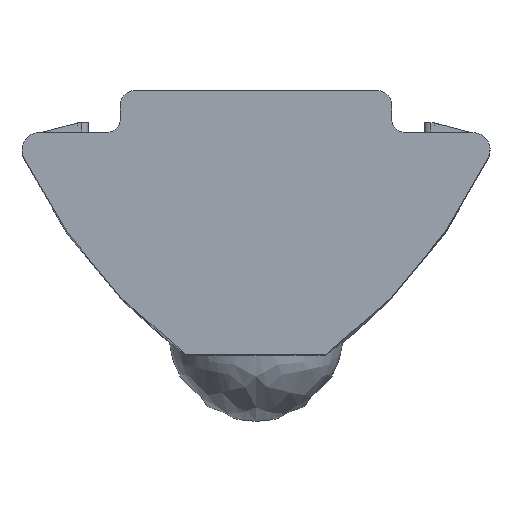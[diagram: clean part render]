
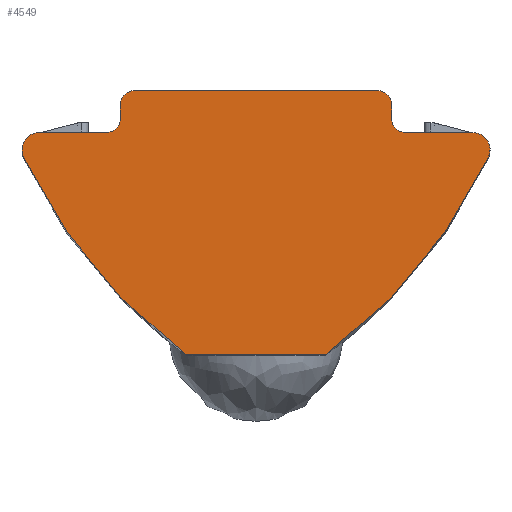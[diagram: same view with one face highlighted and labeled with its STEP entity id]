
A CAD part, top view. The second image highlights one B-rep face of the part: STEP entity #4549.
In plain terms, the highlighted planar face has unit normal (0, 0, 1).
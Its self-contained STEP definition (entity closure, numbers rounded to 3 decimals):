
#10 = DIRECTION ( 'NONE',  ( 0., 0., -1. ) ) ;
#21 = CARTESIAN_POINT ( 'NONE',  ( 3.5, 0.4, 22. ) ) ;
#48 = AXIS2_PLACEMENT_3D ( 'NONE', #1475, #2258, #3289 ) ;
#104 = DIRECTION ( 'NONE',  ( -1., 0., 0. ) ) ;
#164 = DIRECTION ( 'NONE',  ( 0., 0., -1. ) ) ;
#168 = EDGE_CURVE ( 'NONE', #4877, #396, #692, .T. ) ;
#193 = CARTESIAN_POINT ( 'NONE',  ( -3.9, 0.4, 22. ) ) ;
#232 = CARTESIAN_POINT ( 'NONE',  ( -3.9, -0.4, 22. ) ) ;
#265 = CARTESIAN_POINT ( 'NONE',  ( 3.9, 0., 22. ) ) ;
#292 = CARTESIAN_POINT ( 'NONE',  ( -2., -7.2, 22. ) ) ;
#333 = EDGE_CURVE ( 'NONE', #828, #2884, #4367, .T. ) ;
#384 = EDGE_CURVE ( 'NONE', #828, #4877, #1573, .T. ) ;
#391 = ORIENTED_EDGE ( 'NONE', *, *, #4662, .F. ) ;
#396 = VERTEX_POINT ( 'NONE', #2754 ) ;
#439 = ORIENTED_EDGE ( 'NONE', *, *, #3114, .T. ) ;
#464 = DIRECTION ( 'NONE',  ( 1., 0., 0. ) ) ;
#491 = DIRECTION ( 'NONE',  ( 1., 0., 0. ) ) ;
#628 = DIRECTION ( 'NONE',  ( -1., 0., 0. ) ) ;
#655 = DIRECTION ( 'NONE',  ( -1., 0., 0. ) ) ;
#666 = VECTOR ( 'NONE', #628, 1000. ) ;
#676 = DIRECTION ( 'NONE',  ( 0., 0., -1. ) ) ;
#677 = CARTESIAN_POINT ( 'NONE',  ( 6.233, -1.3, 22. ) ) ;
#692 = CIRCLE ( 'NONE', #2862, 15. ) ;
#755 = EDGE_CURVE ( 'NONE', #1159, #1243, #2544, .T. ) ;
#763 = CIRCLE ( 'NONE', #4687, 0.5 ) ;
#828 = VERTEX_POINT ( 'NONE', #292 ) ;
#842 = EDGE_CURVE ( 'NONE', #2698, #1159, #3324, .T. ) ;
#976 = CARTESIAN_POINT ( 'NONE',  ( -6.233, -1.3, 22. ) ) ;
#991 = VERTEX_POINT ( 'NONE', #3910 ) ;
#1003 = EDGE_CURVE ( 'NONE', #2884, #3069, #763, .T. ) ;
#1021 = ORIENTED_EDGE ( 'NONE', *, *, #333, .F. ) ;
#1023 = DIRECTION ( 'NONE',  ( 1., 0., 0. ) ) ;
#1085 = CARTESIAN_POINT ( 'NONE',  ( 0., -0.8, 22. ) ) ;
#1098 = CIRCLE ( 'NONE', #4613, 0.4 ) ;
#1101 = CARTESIAN_POINT ( 'NONE',  ( 2., -7.2, 22. ) ) ;
#1142 = EDGE_LOOP ( 'NONE', ( #2649, #1968, #391, #1953, #439, #2996, #4898, #1021, #3246, #3224, #2753, #4955, #1453, #1930, #3586 ) ) ;
#1159 = VERTEX_POINT ( 'NONE', #3437 ) ;
#1243 = VERTEX_POINT ( 'NONE', #2269 ) ;
#1255 = AXIS2_PLACEMENT_3D ( 'NONE', #677, #10, #3046 ) ;
#1365 = EDGE_CURVE ( 'NONE', #3219, #4961, #1876, .T. ) ;
#1453 = ORIENTED_EDGE ( 'NONE', *, *, #755, .T. ) ;
#1475 = CARTESIAN_POINT ( 'NONE',  ( 6.879, 4.89, 22. ) ) ;
#1573 = LINE ( 'NONE', #4221, #4283 ) ;
#1617 = AXIS2_PLACEMENT_3D ( 'NONE', #1824, #2126, #3005 ) ;
#1627 = VERTEX_POINT ( 'NONE', #4934 ) ;
#1638 = LINE ( 'NONE', #193, #1780 ) ;
#1701 = CARTESIAN_POINT ( 'NONE',  ( -6.233, -0.8, 22. ) ) ;
#1750 = VECTOR ( 'NONE', #1801, 1000. ) ;
#1759 = DIRECTION ( 'NONE',  ( 0., 0., 1. ) ) ;
#1780 = VECTOR ( 'NONE', #491, 1000. ) ;
#1789 = LINE ( 'NONE', #1085, #666 ) ;
#1801 = DIRECTION ( 'NONE',  ( 0., 1., 0. ) ) ;
#1824 = CARTESIAN_POINT ( 'NONE',  ( -4.3, -0.4, 22. ) ) ;
#1876 = CIRCLE ( 'NONE', #2529, 0.4 ) ;
#1930 = ORIENTED_EDGE ( 'NONE', *, *, #4818, .T. ) ;
#1953 = ORIENTED_EDGE ( 'NONE', *, *, #2387, .T. ) ;
#1968 = ORIENTED_EDGE ( 'NONE', *, *, #4176, .T. ) ;
#2025 = DIRECTION ( 'NONE',  ( 0., 0., 1. ) ) ;
#2126 = DIRECTION ( 'NONE',  ( 0., 0., -1. ) ) ;
#2258 = DIRECTION ( 'NONE',  ( 0., 0., -1. ) ) ;
#2269 = CARTESIAN_POINT ( 'NONE',  ( 3.9, -0.4, 22. ) ) ;
#2387 = EDGE_CURVE ( 'NONE', #3086, #3914, #3768, .T. ) ;
#2449 = CARTESIAN_POINT ( 'NONE',  ( 0., 0., 22. ) ) ;
#2469 = AXIS2_PLACEMENT_3D ( 'NONE', #2449, #4447, #1023 ) ;
#2476 = DIRECTION ( 'NONE',  ( -1., 0., 0. ) ) ;
#2524 = CARTESIAN_POINT ( 'NONE',  ( -3.9, -0.4, 22. ) ) ;
#2529 = AXIS2_PLACEMENT_3D ( 'NONE', #4764, #1759, #3952 ) ;
#2544 = CIRCLE ( 'NONE', #3174, 0.4 ) ;
#2557 = CARTESIAN_POINT ( 'NONE',  ( -6.686, -1.513, 22. ) ) ;
#2649 = ORIENTED_EDGE ( 'NONE', *, *, #2967, .F. ) ;
#2674 = VECTOR ( 'NONE', #4829, 1000. ) ;
#2698 = VERTEX_POINT ( 'NONE', #3977 ) ;
#2753 = ORIENTED_EDGE ( 'NONE', *, *, #4043, .F. ) ;
#2754 = CARTESIAN_POINT ( 'NONE',  ( 6.686, -1.513, 22. ) ) ;
#2782 = CIRCLE ( 'NONE', #1255, 0.5 ) ;
#2862 = AXIS2_PLACEMENT_3D ( 'NONE', #4008, #4409, #4035 ) ;
#2884 = VERTEX_POINT ( 'NONE', #2557 ) ;
#2929 = PLANE ( 'NONE',  #2469 ) ;
#2945 = LINE ( 'NONE', #232, #3409 ) ;
#2967 = EDGE_CURVE ( 'NONE', #991, #4961, #1638, .T. ) ;
#2996 = ORIENTED_EDGE ( 'NONE', *, *, #4412, .F. ) ;
#3005 = DIRECTION ( 'NONE',  ( -1., 0., 0. ) ) ;
#3046 = DIRECTION ( 'NONE',  ( -1., 0., 0. ) ) ;
#3069 = VERTEX_POINT ( 'NONE', #4049 ) ;
#3086 = VERTEX_POINT ( 'NONE', #2524 ) ;
#3114 = EDGE_CURVE ( 'NONE', #3914, #3956, #1789, .T. ) ;
#3174 = AXIS2_PLACEMENT_3D ( 'NONE', #4880, #676, #655 ) ;
#3188 = DIRECTION ( 'NONE',  ( 0., 0., -1. ) ) ;
#3219 = VERTEX_POINT ( 'NONE', #265 ) ;
#3224 = ORIENTED_EDGE ( 'NONE', *, *, #168, .T. ) ;
#3246 = ORIENTED_EDGE ( 'NONE', *, *, #384, .T. ) ;
#3265 = DIRECTION ( 'NONE',  ( 0., 1., 0. ) ) ;
#3266 = CIRCLE ( 'NONE', #3662, 0.5 ) ;
#3289 = DIRECTION ( 'NONE',  ( -1., 0., 0. ) ) ;
#3307 = CARTESIAN_POINT ( 'NONE',  ( -4.3, -0.8, 22. ) ) ;
#3324 = LINE ( 'NONE', #4092, #2674 ) ;
#3409 = VECTOR ( 'NONE', #3265, 1000. ) ;
#3437 = CARTESIAN_POINT ( 'NONE',  ( 4.3, -0.8, 22. ) ) ;
#3536 = CARTESIAN_POINT ( 'NONE',  ( -6.233, -1.3, 22. ) ) ;
#3586 = ORIENTED_EDGE ( 'NONE', *, *, #1365, .T. ) ;
#3662 = AXIS2_PLACEMENT_3D ( 'NONE', #976, #164, #2476 ) ;
#3768 = CIRCLE ( 'NONE', #1617, 0.4 ) ;
#3910 = CARTESIAN_POINT ( 'NONE',  ( -3.5, 0.4, 22. ) ) ;
#3914 = VERTEX_POINT ( 'NONE', #3307 ) ;
#3952 = DIRECTION ( 'NONE',  ( 1., 0., 0. ) ) ;
#3956 = VERTEX_POINT ( 'NONE', #1701 ) ;
#3977 = CARTESIAN_POINT ( 'NONE',  ( 6.233, -0.8, 22. ) ) ;
#4008 = CARTESIAN_POINT ( 'NONE',  ( -6.879, 4.89, 22. ) ) ;
#4035 = DIRECTION ( 'NONE',  ( -1., 0., 0. ) ) ;
#4043 = EDGE_CURVE ( 'NONE', #2698, #396, #2782, .T. ) ;
#4049 = CARTESIAN_POINT ( 'NONE',  ( -6.733, -1.3, 22. ) ) ;
#4061 = CARTESIAN_POINT ( 'NONE',  ( 3.9, -0.4, 22. ) ) ;
#4092 = CARTESIAN_POINT ( 'NONE',  ( 0., -0.8, 22. ) ) ;
#4176 = EDGE_CURVE ( 'NONE', #991, #1627, #1098, .T. ) ;
#4221 = CARTESIAN_POINT ( 'NONE',  ( 0., -7.2, 22. ) ) ;
#4283 = VECTOR ( 'NONE', #4630, 1000. ) ;
#4344 = FACE_OUTER_BOUND ( 'NONE', #1142, .T. ) ;
#4367 = CIRCLE ( 'NONE', #48, 15. ) ;
#4409 = DIRECTION ( 'NONE',  ( 0., 0., 1. ) ) ;
#4412 = EDGE_CURVE ( 'NONE', #3069, #3956, #3266, .T. ) ;
#4447 = DIRECTION ( 'NONE',  ( 0., 0., 1. ) ) ;
#4549 = ADVANCED_FACE ( 'NONE', ( #4344 ), #2929, .T. ) ;
#4613 = AXIS2_PLACEMENT_3D ( 'NONE', #4623, #2025, #464 ) ;
#4623 = CARTESIAN_POINT ( 'NONE',  ( -3.5, 0., 22. ) ) ;
#4630 = DIRECTION ( 'NONE',  ( 1., 0., 0. ) ) ;
#4662 = EDGE_CURVE ( 'NONE', #3086, #1627, #2945, .T. ) ;
#4687 = AXIS2_PLACEMENT_3D ( 'NONE', #3536, #3188, #104 ) ;
#4764 = CARTESIAN_POINT ( 'NONE',  ( 3.5, 0., 22. ) ) ;
#4818 = EDGE_CURVE ( 'NONE', #1243, #3219, #4890, .T. ) ;
#4829 = DIRECTION ( 'NONE',  ( -1., 0., 0. ) ) ;
#4877 = VERTEX_POINT ( 'NONE', #1101 ) ;
#4880 = CARTESIAN_POINT ( 'NONE',  ( 4.3, -0.4, 22. ) ) ;
#4890 = LINE ( 'NONE', #4061, #1750 ) ;
#4898 = ORIENTED_EDGE ( 'NONE', *, *, #1003, .F. ) ;
#4934 = CARTESIAN_POINT ( 'NONE',  ( -3.9, 0., 22. ) ) ;
#4955 = ORIENTED_EDGE ( 'NONE', *, *, #842, .T. ) ;
#4961 = VERTEX_POINT ( 'NONE', #21 ) ;
